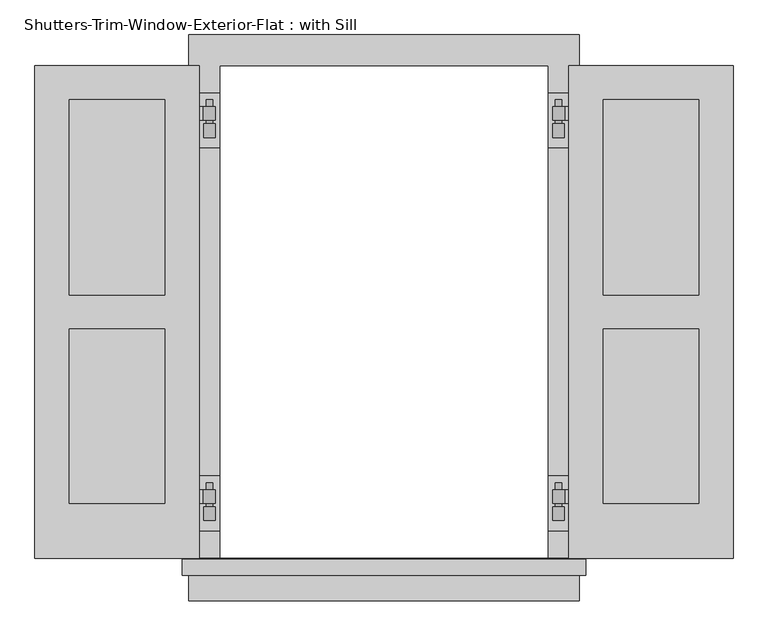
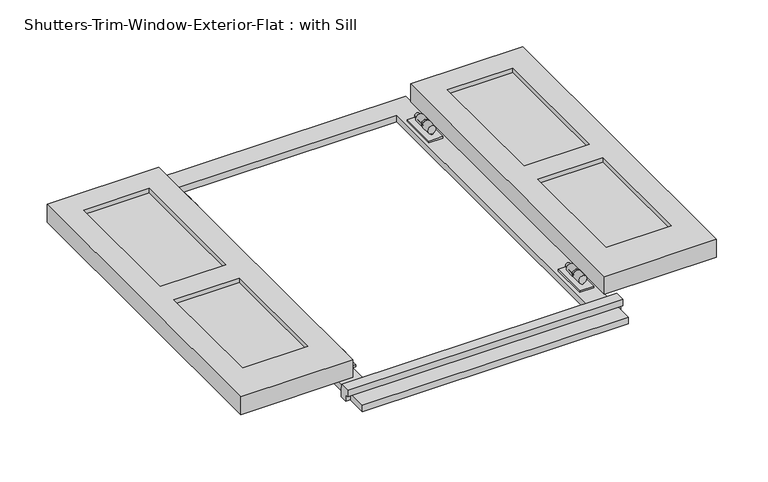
"""IFC4 building model written with IfcOpenShell, lengths in millimetres: proxy geometry, Shutters-Trim-Window-Exterior-Flat : with Sill."""

from ifc_helpers import new_model, si_unit, frame, origin, origin_with_axes, place, context, project, spatial, polyline, circle_curve, outline, extrude, source, transform, mapped, element, save
from ifc_brep_helpers import plane_surface, cylinder_surface, revolved_surface, advanced_brep


def shutters_trim_window_exterior_flat_with_sill_dd266633(model_context):
    return source(origin(), model_context, "Body", "SolidModel", [
        extrude(outline(polyline([(-647.7, 0.0), (-342.9, 0.0), (-342.9, -914.4), (-647.7, -914.4), (-647.7, 0.0)]), holes=[polyline([(-584.2, -63.5), (-584.2, -425.45), (-406.4, -425.45), (-406.4, -63.5), (-584.2, -63.5)]), polyline([(-406.4, -488.95), (-584.2, -488.95), (-584.2, -812.8), (-406.4, -812.8), (-406.4, -488.95)])]), frame((0.0, 0.0, 44.45), z_axis=(0.0, 0.0, 1.0), x_axis=(1.0, 0.0, 0.0)), (0.0, 0.0, 1.0), 50.8),
        extrude(outline(polyline([(-584.2, -63.5), (-406.4, -63.5), (-406.4, -425.45), (-584.2, -425.45), (-584.2, -63.5)])), frame((0.0, 0.0, 57.15), z_axis=(0.0, 0.0, 1.0), x_axis=(1.0, 0.0, 0.0)), (0.0, 0.0, 1.0), 25.4),
        extrude(outline(polyline([(-406.4, -488.95), (-406.4, -812.8), (-584.2, -812.8), (-584.2, -488.95), (-406.4, -488.95)])), frame((0.0, 0.0, 57.15), z_axis=(0.0, 0.0, 1.0), x_axis=(1.0, 0.0, 0.0)), (0.0, 0.0, 1.0), 25.4),
        extrude(outline(polyline([(647.7, 0.0), (647.7, -914.4), (342.9, -914.4), (342.9, 0.0), (647.7, 0.0)]), holes=[polyline([(584.2, -63.5), (406.4, -63.5), (406.4, -425.45), (584.2, -425.45), (584.2, -63.5)]), polyline([(406.4, -488.95), (406.4, -812.8), (584.2, -812.8), (584.2, -488.95), (406.4, -488.95)])]), frame((0.0, 0.0, 44.45), z_axis=(0.0, 0.0, 1.0), x_axis=(1.0, 0.0, 0.0)), (0.0, 0.0, 1.0), 50.8),
        extrude(outline(polyline([(584.2, -63.5), (584.2, -425.45), (406.4, -425.45), (406.4, -63.5), (584.2, -63.5)])), frame((0.0, 0.0, 57.15), z_axis=(0.0, 0.0, 1.0), x_axis=(1.0, 0.0, 0.0)), (0.0, 0.0, 1.0), 25.4),
        extrude(outline(polyline([(406.4, -488.95), (584.2, -488.95), (584.2, -812.8), (406.4, -812.8), (406.4, -488.95)])), frame((0.0, 0.0, 57.15), z_axis=(0.0, 0.0, 1.0), x_axis=(1.0, 0.0, 0.0)), (0.0, 0.0, 1.0), 25.4),
        extrude(outline(polyline([(-342.9, -762.0), (-304.8, -762.0), (-304.8, -863.6), (-342.9, -863.6), (-342.9, -762.0)])), frame((0.0, 0.0, 31.75), z_axis=(0.0, 0.0, 1.0), x_axis=(1.0, 0.0, 0.0)), (0.0, 0.0, 1.0), 4.7625),
        advanced_brep(
        [(-388.9375, -774.7, 44.45), (-363.474, -774.7, 44.45), (-363.474, -774.7, 39.6875), (-388.9375, -774.7, 39.6875), (-388.9375, -825.5, 39.6875), (-363.474, -825.5, 39.6875), (-363.474, -825.5, 44.45), (-388.9375, -825.5, 44.45), (-363.474, -787.4, 39.6875), (-323.85, -787.4, 39.6875), (-323.85, -812.8, 39.6875), (-363.474, -812.8, 39.6875), (-363.474, -812.8, 44.45), (-323.85, -812.8, 44.45), (-323.85, -787.4, 44.45), (-363.474, -787.4, 44.45), (-330.2, -812.8, 50.8), (-330.2, -787.4, 50.8), (-330.2, -812.8, 46.0375), (-330.2, -787.4, 46.0375), (-334.9625, -812.8, 46.0375), (-334.9625, -787.4, 46.0375), (-334.9625, -812.8, 50.8), (-334.9625, -787.4, 50.8)],
        [
            (0, 1),
            (1, 2),
            (2, 3),
            (3, 0),
            (4, 5),
            (5, 6),
            (6, 7),
            (7, 4),
            (2, 8),
            (8, 9),
            (9, 10),
            (10, 11),
            (11, 5),
            (4, 3),
            (7, 0),
            (6, 12),
            (12, 13),
            (13, 14),
            (14, 15),
            (15, 1),
            (16, 17),
            (17, 14, circle_curve(frame((-323.85, -787.4, 50.8), z_axis=(0.0, 1.0, 0.0), x_axis=(1.0, 0.0, 0.0)), 6.35)),
            (13, 16, circle_curve(frame((-323.85, -812.8, 50.8), z_axis=(0.0, -1.0, 0.0), x_axis=(1.0, 0.0, 0.0)), 6.35)),
            (18, 19),
            (19, 17),
            (16, 18),
            (20, 21),
            (21, 19),
            (18, 20),
            (22, 23),
            (23, 21),
            (20, 22),
            (9, 23, circle_curve(frame((-323.85, -787.4, 50.8), z_axis=(0.0, -1.0, 0.0), x_axis=(1.0, 0.0, 0.0)), 11.1125)),
            (22, 10, circle_curve(frame((-323.85, -812.8, 50.8), z_axis=(0.0, 1.0, 0.0), x_axis=(1.0, 0.0, 0.0)), 11.1125)),
            (12, 11),
            (8, 15),
        ],
        [
            plane_surface(frame((-323.85, -774.7, 50.8), z_axis=(0.0, 1.0, 0.0), x_axis=(0.0, 0.0, 1.0))),
            plane_surface(frame((-323.85, -825.5, 50.8), z_axis=(0.0, -1.0, 0.0), x_axis=(0.0, 0.0, 1.0))),
            plane_surface(frame((-388.9375, -774.7, 39.6875), z_axis=(0.0, 0.0, -1.0), x_axis=(0.0, -1.0, 0.0))),
            plane_surface(frame((-388.9375, -774.7, 44.45), z_axis=(-1.0, 0.0, 0.0), x_axis=(0.0, -1.0, 0.0))),
            plane_surface(frame((-323.85, -774.7, 44.45), z_axis=(0.0, 0.0, 1.0), x_axis=(0.0, -1.0, 0.0))),
            revolved_surface(polyline([(-317.5, -812.8, 50.8), (-317.5, -787.4, 50.8)]), (-323.85, -774.7, 50.8), (0.0, -1.0, 0.0)),
            plane_surface(frame((-330.2, -774.7, 46.0375), z_axis=(1.0, 0.0, 0.0), x_axis=(0.0, -1.0, 0.0))),
            plane_surface(frame((-334.9625, -774.7, 46.0375), z_axis=(0.0, 0.0, -1.0), x_axis=(0.0, -1.0, 0.0))),
            plane_surface(frame((-334.9625, -774.7, 50.8), z_axis=(-1.0, 0.0, 0.0), x_axis=(0.0, -1.0, 0.0))),
            cylinder_surface(frame((-323.85, -774.7, 50.8), z_axis=(0.0, 1.0, 0.0), x_axis=(1.0, 0.0, 0.0)), 11.1125),
            plane_surface(frame((-323.85, -812.8, 50.8), z_axis=(0.0, -1.0, 0.0), x_axis=(0.0, 0.0, 1.0))),
            plane_surface(frame((-363.474, -812.8, 44.45), z_axis=(1.0, 0.0, 0.0), x_axis=(0.0, -1.0, 0.0))),
            plane_surface(frame((-323.85, -787.4, 50.8), z_axis=(0.0, 1.0, 0.0), x_axis=(0.0, 0.0, 1.0))),
            plane_surface(frame((-363.474, -774.7, 44.45), z_axis=(1.0, 0.0, 0.0), x_axis=(0.0, -1.0, 0.0))),
        ],
        [
            (0, [[1, 2, 3, 4]]),
            (1, [[5, 6, 7, 8]]),
            (2, [[-3, 9, 10, 11, 12, 13, -5, 14]]),
            (3, [[-14, -8, 15, -4]]),
            (4, [[-7, 16, 17, 18, 19, 20, -1, -15]]),
            (5, [[21, 22, -18, 23]]),
            (6, [[24, 25, -21, 26]]),
            (7, [[27, 28, -24, 29]]),
            (8, [[30, 31, -27, 32]]),
            (9, [[-11, 33, -30, 34]]),
            (10, [[-12, -34, -32, -29, -26, -23, -17, 35]]),
            (11, [[-16, -6, -13, -35]]),
            (12, [[-19, -22, -25, -28, -31, -33, -10, 36]]),
            (13, [[-9, -2, -20, -36]]),
        ],
    ),
        advanced_brep(
        [(-326.23125, -819.15, 36.5125), (-326.23125, -819.15, 39.945632), (-321.46875, -819.15, 39.945632), (-321.46875, -819.15, 36.5125), (-317.5, -819.15, 50.8), (-330.2, -819.15, 50.8), (-326.23125, -844.55, 36.5125), (-321.46875, -844.55, 36.5125), (-321.46875, -844.55, 39.945632), (-326.23125, -844.55, 39.945632), (-330.2, -774.7, 50.8), (-317.5, -774.7, 50.8)],
        [
            (0, 1),
            (1, 2, circle_curve(frame((-323.85, -819.15, 50.8), z_axis=(0.0, 1.0, 0.0), x_axis=(1.0, 0.0, 0.0)), 11.1125)),
            (2, 3),
            (3, 0),
            (4, 5, circle_curve(frame((-323.85, -819.15, 50.8), z_axis=(0.0, -1.0, 0.0), x_axis=(1.0, 0.0, 0.0)), 6.35)),
            (5, 4, circle_curve(frame((-323.85, -819.15, 50.8), z_axis=(0.0, -1.0, 0.0), x_axis=(1.0, 0.0, 0.0)), 6.35)),
            (6, 7),
            (7, 8),
            (8, 9, circle_curve(frame((-323.85, -844.55, 50.8), z_axis=(0.0, -1.0, 0.0), x_axis=(1.0, 0.0, 0.0)), 11.1125)),
            (9, 6),
            (0, 6),
            (9, 1),
            (3, 7),
            (2, 8),
            (10, 11, circle_curve(frame((-323.85, -774.7, 50.8), z_axis=(0.0, 1.0, 0.0), x_axis=(1.0, 0.0, 0.0)), 6.35)),
            (11, 10, circle_curve(frame((-323.85, -774.7, 50.8), z_axis=(0.0, 1.0, 0.0), x_axis=(1.0, 0.0, 0.0)), 6.35)),
            (11, 4),
            (5, 10),
        ],
        [
            plane_surface(frame((-321.46875, -819.15, 36.5125), z_axis=(0.0, 1.0, 0.0), x_axis=(1.0, 0.0, 6.2395484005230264e-12))),
            plane_surface(frame((-321.46875, -844.55, 36.5125), z_axis=(0.0, -1.0, 0.0), x_axis=(-1.0, 0.0, -6.2395484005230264e-12))),
            plane_surface(frame((-326.23125, -819.15, 39.945632), z_axis=(-1.0, 0.0, 0.0), x_axis=(0.0, -1.0, 0.0))),
            plane_surface(frame((-326.23125, -819.15, 36.5125), z_axis=(6.2395484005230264e-12, 0.0, -1.0), x_axis=(0.0, -1.0, 0.0))),
            plane_surface(frame((-321.46875, -819.15, 36.5125), z_axis=(1.0, 0.0, 0.0), x_axis=(0.0, -1.0, 0.0))),
            cylinder_surface(frame((-323.85, -844.55, 50.8), z_axis=(0.0, 1.0, 0.0), x_axis=(1.0, 0.0, 0.0)), 11.1125),
            plane_surface(frame((-317.5, -774.7, 50.8), z_axis=(0.0, 1.0, 0.0), x_axis=(0.0, 0.0, 1.0))),
            cylinder_surface(frame((-323.85, -844.55, 50.8), z_axis=(0.0, 1.0, 0.0), x_axis=(1.0, 0.0, 0.0)), 6.35),
        ],
        [
            (0, [[1, 2, 3, 4], [5, 6]]),
            (1, [[7, 8, 9, 10]]),
            (2, [[11, -10, 12, -1]]),
            (3, [[13, -7, -11, -4]]),
            (4, [[14, -8, -13, -3]]),
            (5, [[-12, -9, -14, -2]]),
            (6, [[15, 16]]),
            (7, [[17, -6, 18, -16]]),
            (7, [[-18, -5, -17, -15]]),
        ],
    ),
        extrude(outline(polyline([(342.9, -762.0), (342.9, -863.6), (304.8, -863.6), (304.8, -762.0), (342.9, -762.0)])), frame((0.0, 0.0, 31.75), z_axis=(0.0, 0.0, 1.0), x_axis=(1.0, 0.0, 0.0)), (0.0, 0.0, 1.0), 4.7625),
        advanced_brep(
        [(388.9375, -774.7, 44.45), (388.9375, -774.7, 39.6875), (363.474, -774.7, 39.6875), (363.474, -774.7, 44.45), (388.9375, -825.5, 39.6875), (388.9375, -825.5, 44.45), (363.474, -825.5, 44.45), (363.474, -825.5, 39.6875), (363.474, -812.8, 39.6875), (323.85, -812.8, 39.6875), (323.85, -787.4, 39.6875), (363.474, -787.4, 39.6875), (363.474, -787.4, 44.45), (323.85, -787.4, 44.45), (323.85, -812.8, 44.45), (363.474, -812.8, 44.45), (330.2, -812.8, 50.8), (330.2, -787.4, 50.8), (330.2, -812.8, 46.0375), (330.2, -787.4, 46.0375), (334.9625, -812.8, 46.0375), (334.9625, -787.4, 46.0375), (334.9625, -812.8, 50.8), (334.9625, -787.4, 50.8)],
        [
            (0, 1),
            (1, 2),
            (2, 3),
            (3, 0),
            (4, 5),
            (5, 6),
            (6, 7),
            (7, 4),
            (1, 4),
            (7, 8),
            (8, 9),
            (9, 10),
            (10, 11),
            (11, 2),
            (0, 5),
            (3, 12),
            (12, 13),
            (13, 14),
            (14, 15),
            (15, 6),
            (16, 14, circle_curve(frame((323.85, -812.8, 50.8), z_axis=(0.0, -1.0, 0.0), x_axis=(-1.0, 0.0, 0.0)), 6.35)),
            (13, 17, circle_curve(frame((323.85, -787.4, 50.8), z_axis=(0.0, 1.0, 0.0), x_axis=(-1.0, 0.0, 0.0)), 6.35)),
            (17, 16),
            (18, 16),
            (17, 19),
            (19, 18),
            (20, 18),
            (19, 21),
            (21, 20),
            (22, 20),
            (21, 23),
            (23, 22),
            (9, 22, circle_curve(frame((323.85, -812.8, 50.8), z_axis=(0.0, 1.0, 0.0), x_axis=(-1.0, 0.0, 0.0)), 11.1125)),
            (23, 10, circle_curve(frame((323.85, -787.4, 50.8), z_axis=(0.0, -1.0, 0.0), x_axis=(-1.0, 0.0, 0.0)), 11.1125)),
            (8, 15),
            (12, 11),
        ],
        [
            plane_surface(frame((323.85, -774.7, 50.8), z_axis=(0.0, 1.0, 0.0), x_axis=(0.0, 0.0, 1.0))),
            plane_surface(frame((323.85, -825.5, 50.8), z_axis=(0.0, -1.0, 0.0), x_axis=(0.0, 0.0, 1.0))),
            plane_surface(frame((388.9375, -774.7, 39.6875), z_axis=(0.0, 0.0, -1.0), x_axis=(0.0, -1.0, 0.0))),
            plane_surface(frame((388.9375, -774.7, 44.45), z_axis=(1.0, 0.0, 0.0), x_axis=(0.0, -1.0, 0.0))),
            plane_surface(frame((323.85, -774.7, 44.45), z_axis=(0.0, 0.0, 1.0), x_axis=(0.0, -1.0, 0.0))),
            revolved_surface(polyline([(317.5, -812.8, 50.8), (317.5, -787.4, 50.8)]), (323.85, -774.7, 50.8), (0.0, -1.0, 0.0)),
            plane_surface(frame((330.2, -774.7, 46.0375), z_axis=(-1.0, 0.0, 0.0), x_axis=(0.0, -1.0, 0.0))),
            plane_surface(frame((334.9625, -774.7, 46.0375), z_axis=(0.0, 0.0, -1.0), x_axis=(0.0, -1.0, 0.0))),
            plane_surface(frame((334.9625, -774.7, 50.8), z_axis=(1.0, 0.0, 0.0), x_axis=(0.0, -1.0, 0.0))),
            cylinder_surface(frame((323.85, -774.7, 50.8), z_axis=(0.0, 1.0, 0.0), x_axis=(-1.0, 0.0, 0.0)), 11.1125),
            plane_surface(frame((323.85, -812.8, 50.8), z_axis=(0.0, -1.0, 0.0), x_axis=(0.0, 0.0, 1.0))),
            plane_surface(frame((363.474, -812.8, 44.45), z_axis=(-1.0, 0.0, 0.0), x_axis=(0.0, -1.0, 0.0))),
            plane_surface(frame((323.85, -787.4, 50.8), z_axis=(0.0, 1.0, 0.0), x_axis=(0.0, 0.0, 1.0))),
            plane_surface(frame((363.474, -774.7, 44.45), z_axis=(-1.0, 0.0, 0.0), x_axis=(0.0, -1.0, 0.0))),
        ],
        [
            (0, [[1, 2, 3, 4]]),
            (1, [[5, 6, 7, 8]]),
            (2, [[9, -8, 10, 11, 12, 13, 14, -2]]),
            (3, [[-1, 15, -5, -9]]),
            (4, [[-15, -4, 16, 17, 18, 19, 20, -6]]),
            (5, [[21, -18, 22, 23]]),
            (6, [[24, -23, 25, 26]]),
            (7, [[27, -26, 28, 29]]),
            (8, [[30, -29, 31, 32]]),
            (9, [[33, -32, 34, -12]]),
            (10, [[35, -19, -21, -24, -27, -30, -33, -11]]),
            (11, [[-35, -10, -7, -20]]),
            (12, [[36, -13, -34, -31, -28, -25, -22, -17]]),
            (13, [[-36, -16, -3, -14]]),
        ],
    ),
        advanced_brep(
        [(326.23125, -819.15, 36.5125), (321.46875, -819.15, 36.5125), (321.46875, -819.15, 39.945632), (326.23125, -819.15, 39.945632), (317.5, -819.15, 50.8), (330.2, -819.15, 50.8), (326.23125, -844.55, 36.5125), (326.23125, -844.55, 39.945632), (321.46875, -844.55, 39.945632), (321.46875, -844.55, 36.5125), (330.2, -774.7, 50.8), (317.5, -774.7, 50.8)],
        [
            (0, 1),
            (1, 2),
            (2, 3, circle_curve(frame((323.85, -819.15, 50.8), z_axis=(0.0, 1.0, 0.0), x_axis=(-1.0, 0.0, 0.0)), 11.1125)),
            (3, 0),
            (4, 5, circle_curve(frame((323.85, -819.15, 50.8), z_axis=(0.0, -1.0, 0.0), x_axis=(-1.0, 0.0, 0.0)), 6.35)),
            (5, 4, circle_curve(frame((323.85, -819.15, 50.8), z_axis=(0.0, -1.0, 0.0), x_axis=(-1.0, 0.0, 0.0)), 6.35)),
            (6, 7),
            (7, 8, circle_curve(frame((323.85, -844.55, 50.8), z_axis=(0.0, -1.0, 0.0), x_axis=(-1.0, 0.0, 0.0)), 11.1125)),
            (8, 9),
            (9, 6),
            (3, 7),
            (6, 0),
            (9, 1),
            (8, 2),
            (10, 11, circle_curve(frame((323.85, -774.7, 50.8), z_axis=(0.0, 1.0, 0.0), x_axis=(-1.0, 0.0, 0.0)), 6.35)),
            (11, 10, circle_curve(frame((323.85, -774.7, 50.8), z_axis=(0.0, 1.0, 0.0), x_axis=(-1.0, 0.0, 0.0)), 6.35)),
            (10, 5),
            (4, 11),
        ],
        [
            plane_surface(frame((321.46875, -819.15, 36.5125), z_axis=(0.0, 1.0, 0.0), x_axis=(-1.0, 0.0, 6.24601973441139e-12))),
            plane_surface(frame((321.46875, -844.55, 36.5125), z_axis=(0.0, -1.0, 0.0), x_axis=(1.0, 0.0, -6.24601973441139e-12))),
            plane_surface(frame((326.23125, -819.15, 39.945632), z_axis=(1.0, 0.0, 0.0), x_axis=(0.0, -1.0, 0.0))),
            plane_surface(frame((326.23125, -819.15, 36.5125), z_axis=(-6.24601973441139e-12, 0.0, -1.0), x_axis=(0.0, -1.0, 0.0))),
            plane_surface(frame((321.46875, -819.15, 36.5125), z_axis=(-1.0, 0.0, 0.0), x_axis=(0.0, -1.0, 0.0))),
            cylinder_surface(frame((323.85, -844.55, 50.8), z_axis=(0.0, 1.0, 0.0), x_axis=(-1.0, 0.0, 0.0)), 11.1125),
            plane_surface(frame((317.5, -774.7, 50.8), z_axis=(0.0, 1.0, 0.0), x_axis=(0.0, 0.0, 1.0))),
            cylinder_surface(frame((323.85, -844.55, 50.8), z_axis=(0.0, 1.0, 0.0), x_axis=(-1.0, 0.0, 0.0)), 6.35),
        ],
        [
            (0, [[1, 2, 3, 4], [5, 6]]),
            (1, [[7, 8, 9, 10]]),
            (2, [[-4, 11, -7, 12]]),
            (3, [[-1, -12, -10, 13]]),
            (4, [[-2, -13, -9, 14]]),
            (5, [[-3, -14, -8, -11]]),
            (6, [[15, 16]]),
            (7, [[-15, 17, -5, 18]]),
            (7, [[-16, -18, -6, -17]]),
        ],
    ),
        extrude(outline(polyline([(342.9, -50.8), (342.9, -152.4), (304.8, -152.4), (304.8, -50.8), (342.9, -50.8)])), frame((0.0, 0.0, 31.75), z_axis=(0.0, 0.0, 1.0), x_axis=(1.0, 0.0, 0.0)), (0.0, 0.0, 1.0), 4.7625),
        advanced_brep(
        [(388.9375, -63.5, 44.45), (388.9375, -63.5, 39.6875), (363.474, -63.5, 39.6875), (363.474, -63.5, 44.45), (388.9375, -114.3, 39.6875), (388.9375, -114.3, 44.45), (363.474, -114.3, 44.45), (363.474, -114.3, 39.6875), (363.474, -101.6, 39.6875), (323.85, -101.6, 39.6875), (323.85, -76.2, 39.6875), (363.474, -76.2, 39.6875), (363.474, -76.2, 44.45), (323.85, -76.2, 44.45), (323.85, -101.6, 44.45), (363.474, -101.6, 44.45), (330.2, -101.6, 50.8), (330.2, -76.2, 50.8), (330.2, -101.6, 46.0375), (330.2, -76.2, 46.0375), (334.9625, -101.6, 46.0375), (334.9625, -76.2, 46.0375), (334.9625, -101.6, 50.8), (334.9625, -76.2, 50.8)],
        [
            (0, 1),
            (1, 2),
            (2, 3),
            (3, 0),
            (4, 5),
            (5, 6),
            (6, 7),
            (7, 4),
            (1, 4),
            (7, 8),
            (8, 9),
            (9, 10),
            (10, 11),
            (11, 2),
            (0, 5),
            (3, 12),
            (12, 13),
            (13, 14),
            (14, 15),
            (15, 6),
            (16, 14, circle_curve(frame((323.85, -101.6, 50.8), z_axis=(0.0, -1.0, 0.0), x_axis=(-1.0, 0.0, 0.0)), 6.35)),
            (13, 17, circle_curve(frame((323.85, -76.2, 50.8), z_axis=(0.0, 1.0, 0.0), x_axis=(-1.0, 0.0, 0.0)), 6.35)),
            (17, 16),
            (18, 16),
            (17, 19),
            (19, 18),
            (20, 18),
            (19, 21),
            (21, 20),
            (22, 20),
            (21, 23),
            (23, 22),
            (9, 22, circle_curve(frame((323.85, -101.6, 50.8), z_axis=(0.0, 1.0, 0.0), x_axis=(-1.0, 0.0, 0.0)), 11.1125)),
            (23, 10, circle_curve(frame((323.85, -76.2, 50.8), z_axis=(0.0, -1.0, 0.0), x_axis=(-1.0, 0.0, 0.0)), 11.1125)),
            (8, 15),
            (12, 11),
        ],
        [
            plane_surface(frame((323.85, -63.5, 50.8), z_axis=(0.0, 1.0, 0.0), x_axis=(0.0, 0.0, 1.0))),
            plane_surface(frame((323.85, -114.3, 50.8), z_axis=(0.0, -1.0, 0.0), x_axis=(0.0, 0.0, 1.0))),
            plane_surface(frame((388.9375, -63.5, 39.6875), z_axis=(0.0, 0.0, -1.0), x_axis=(0.0, -1.0, 0.0))),
            plane_surface(frame((388.9375, -63.5, 44.45), z_axis=(1.0, 0.0, 0.0), x_axis=(0.0, -1.0, 0.0))),
            plane_surface(frame((323.85, -63.5, 44.45), z_axis=(0.0, 0.0, 1.0), x_axis=(0.0, -1.0, 0.0))),
            revolved_surface(polyline([(317.5, -101.6, 50.8), (317.5, -76.2, 50.8)]), (323.85, -63.5, 50.8), (0.0, -1.0, 0.0)),
            plane_surface(frame((330.2, -63.5, 46.0375), z_axis=(-1.0, 0.0, 0.0), x_axis=(0.0, -1.0, 0.0))),
            plane_surface(frame((334.9625, -63.5, 46.0375), z_axis=(0.0, 0.0, -1.0), x_axis=(0.0, -1.0, 0.0))),
            plane_surface(frame((334.9625, -63.5, 50.8), z_axis=(1.0, 0.0, 0.0), x_axis=(0.0, -1.0, 0.0))),
            cylinder_surface(frame((323.85, -63.5, 50.8), z_axis=(0.0, 1.0, 0.0), x_axis=(-1.0, 0.0, 0.0)), 11.1125),
            plane_surface(frame((323.85, -101.6, 50.8), z_axis=(0.0, -1.0, 0.0), x_axis=(0.0, 0.0, 1.0))),
            plane_surface(frame((363.474, -101.6, 44.45), z_axis=(-1.0, 0.0, 0.0), x_axis=(0.0, -1.0, 0.0))),
            plane_surface(frame((323.85, -76.2, 50.8), z_axis=(0.0, 1.0, 0.0), x_axis=(0.0, 0.0, 1.0))),
            plane_surface(frame((363.474, -63.5, 44.45), z_axis=(-1.0, 0.0, 0.0), x_axis=(0.0, -1.0, 0.0))),
        ],
        [
            (0, [[1, 2, 3, 4]]),
            (1, [[5, 6, 7, 8]]),
            (2, [[9, -8, 10, 11, 12, 13, 14, -2]]),
            (3, [[-1, 15, -5, -9]]),
            (4, [[-15, -4, 16, 17, 18, 19, 20, -6]]),
            (5, [[21, -18, 22, 23]]),
            (6, [[24, -23, 25, 26]]),
            (7, [[27, -26, 28, 29]]),
            (8, [[30, -29, 31, 32]]),
            (9, [[33, -32, 34, -12]]),
            (10, [[35, -19, -21, -24, -27, -30, -33, -11]]),
            (11, [[-35, -10, -7, -20]]),
            (12, [[36, -13, -34, -31, -28, -25, -22, -17]]),
            (13, [[-36, -16, -3, -14]]),
        ],
    ),
        advanced_brep(
        [(326.23125, -107.95, 36.5125), (321.46875, -107.95, 36.5125), (321.46875, -107.95, 39.945632), (326.23125, -107.95, 39.945632), (317.5, -107.95, 50.8), (330.2, -107.95, 50.8), (326.23125, -133.35, 36.5125), (326.23125, -133.35, 39.945632), (321.46875, -133.35, 39.945632), (321.46875, -133.35, 36.5125), (330.2, -63.5, 50.8), (317.5, -63.5, 50.8)],
        [
            (0, 1),
            (1, 2),
            (2, 3, circle_curve(frame((323.85, -107.95, 50.8), z_axis=(0.0, 1.0, 0.0), x_axis=(-1.0, 0.0, 0.0)), 11.1125)),
            (3, 0),
            (4, 5, circle_curve(frame((323.85, -107.95, 50.8), z_axis=(0.0, -1.0, 0.0), x_axis=(-1.0, 0.0, 0.0)), 6.35)),
            (5, 4, circle_curve(frame((323.85, -107.95, 50.8), z_axis=(0.0, -1.0, 0.0), x_axis=(-1.0, 0.0, 0.0)), 6.35)),
            (6, 7),
            (7, 8, circle_curve(frame((323.85, -133.35, 50.8), z_axis=(0.0, -1.0, 0.0), x_axis=(-1.0, 0.0, 0.0)), 11.1125)),
            (8, 9),
            (9, 6),
            (3, 7),
            (6, 0),
            (9, 1),
            (8, 2),
            (10, 11, circle_curve(frame((323.85, -63.5, 50.8), z_axis=(0.0, 1.0, 0.0), x_axis=(-1.0, 0.0, 0.0)), 6.35)),
            (11, 10, circle_curve(frame((323.85, -63.5, 50.8), z_axis=(0.0, 1.0, 0.0), x_axis=(-1.0, 0.0, 0.0)), 6.35)),
            (10, 5),
            (4, 11),
        ],
        [
            plane_surface(frame((321.46875, -107.95, 36.5125), z_axis=(0.0, 1.0, 0.0), x_axis=(-1.0, 0.0, 6.24601973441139e-12))),
            plane_surface(frame((321.46875, -133.35, 36.5125), z_axis=(0.0, -1.0, 0.0), x_axis=(1.0, 0.0, -6.24601973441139e-12))),
            plane_surface(frame((326.23125, -107.95, 39.945632), z_axis=(1.0, 0.0, 0.0), x_axis=(0.0, -1.0, 0.0))),
            plane_surface(frame((326.23125, -107.95, 36.5125), z_axis=(-6.24601973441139e-12, 0.0, -1.0), x_axis=(0.0, -1.0, 0.0))),
            plane_surface(frame((321.46875, -107.95, 36.5125), z_axis=(-1.0, 0.0, 0.0), x_axis=(0.0, -1.0, 0.0))),
            cylinder_surface(frame((323.85, -133.35, 50.8), z_axis=(0.0, 1.0, 0.0), x_axis=(-1.0, 0.0, 0.0)), 11.1125),
            plane_surface(frame((317.5, -63.5, 50.8), z_axis=(0.0, 1.0, 0.0), x_axis=(0.0, 0.0, 1.0))),
            cylinder_surface(frame((323.85, -133.35, 50.8), z_axis=(0.0, 1.0, 0.0), x_axis=(-1.0, 0.0, 0.0)), 6.35),
        ],
        [
            (0, [[1, 2, 3, 4], [5, 6]]),
            (1, [[7, 8, 9, 10]]),
            (2, [[-4, 11, -7, 12]]),
            (3, [[-1, -12, -10, 13]]),
            (4, [[-2, -13, -9, 14]]),
            (5, [[-3, -14, -8, -11]]),
            (6, [[15, 16]]),
            (7, [[-15, 17, -5, 18]]),
            (7, [[-16, -18, -6, -17]]),
        ],
    ),
        extrude(outline(polyline([(-342.9, -50.8), (-304.8, -50.8), (-304.8, -152.4), (-342.9, -152.4), (-342.9, -50.8)])), frame((0.0, 0.0, 31.75), z_axis=(0.0, 0.0, 1.0), x_axis=(1.0, 0.0, 0.0)), (0.0, 0.0, 1.0), 4.7625),
        advanced_brep(
        [(-388.9375, -63.5, 44.45), (-363.474, -63.5, 44.45), (-363.474, -63.5, 39.6875), (-388.9375, -63.5, 39.6875), (-388.9375, -114.3, 39.6875), (-363.474, -114.3, 39.6875), (-363.474, -114.3, 44.45), (-388.9375, -114.3, 44.45), (-363.474, -76.2, 39.6875), (-323.85, -76.2, 39.6875), (-323.85, -101.6, 39.6875), (-363.474, -101.6, 39.6875), (-363.474, -101.6, 44.45), (-323.85, -101.6, 44.45), (-323.85, -76.2, 44.45), (-363.474, -76.2, 44.45), (-330.2, -101.6, 50.8), (-330.2, -76.2, 50.8), (-330.2, -101.6, 46.0375), (-330.2, -76.2, 46.0375), (-334.9625, -101.6, 46.0375), (-334.9625, -76.2, 46.0375), (-334.9625, -101.6, 50.8), (-334.9625, -76.2, 50.8)],
        [
            (0, 1),
            (1, 2),
            (2, 3),
            (3, 0),
            (4, 5),
            (5, 6),
            (6, 7),
            (7, 4),
            (2, 8),
            (8, 9),
            (9, 10),
            (10, 11),
            (11, 5),
            (4, 3),
            (7, 0),
            (6, 12),
            (12, 13),
            (13, 14),
            (14, 15),
            (15, 1),
            (16, 17),
            (17, 14, circle_curve(frame((-323.85, -76.2, 50.8), z_axis=(0.0, 1.0, 0.0), x_axis=(1.0, 0.0, 0.0)), 6.35)),
            (13, 16, circle_curve(frame((-323.85, -101.6, 50.8), z_axis=(0.0, -1.0, 0.0), x_axis=(1.0, 0.0, 0.0)), 6.35)),
            (18, 19),
            (19, 17),
            (16, 18),
            (20, 21),
            (21, 19),
            (18, 20),
            (22, 23),
            (23, 21),
            (20, 22),
            (9, 23, circle_curve(frame((-323.85, -76.2, 50.8), z_axis=(0.0, -1.0, 0.0), x_axis=(1.0, 0.0, 0.0)), 11.1125)),
            (22, 10, circle_curve(frame((-323.85, -101.6, 50.8), z_axis=(0.0, 1.0, 0.0), x_axis=(1.0, 0.0, 0.0)), 11.1125)),
            (12, 11),
            (8, 15),
        ],
        [
            plane_surface(frame((-323.85, -63.5, 50.8), z_axis=(0.0, 1.0, 0.0), x_axis=(0.0, 0.0, 1.0))),
            plane_surface(frame((-323.85, -114.3, 50.8), z_axis=(0.0, -1.0, 0.0), x_axis=(0.0, 0.0, 1.0))),
            plane_surface(frame((-388.9375, -63.5, 39.6875), z_axis=(0.0, 0.0, -1.0), x_axis=(0.0, -1.0, 0.0))),
            plane_surface(frame((-388.9375, -63.5, 44.45), z_axis=(-1.0, 0.0, 0.0), x_axis=(0.0, -1.0, 0.0))),
            plane_surface(frame((-323.85, -63.5, 44.45), z_axis=(0.0, 0.0, 1.0), x_axis=(0.0, -1.0, 0.0))),
            revolved_surface(polyline([(-317.5, -101.6, 50.8), (-317.5, -76.2, 50.8)]), (-323.85, -63.5, 50.8), (0.0, -1.0, 0.0)),
            plane_surface(frame((-330.2, -63.5, 46.0375), z_axis=(1.0, 0.0, 0.0), x_axis=(0.0, -1.0, 0.0))),
            plane_surface(frame((-334.9625, -63.5, 46.0375), z_axis=(0.0, 0.0, -1.0), x_axis=(0.0, -1.0, 0.0))),
            plane_surface(frame((-334.9625, -63.5, 50.8), z_axis=(-1.0, 0.0, 0.0), x_axis=(0.0, -1.0, 0.0))),
            cylinder_surface(frame((-323.85, -63.5, 50.8), z_axis=(0.0, 1.0, 0.0), x_axis=(1.0, 0.0, 0.0)), 11.1125),
            plane_surface(frame((-323.85, -101.6, 50.8), z_axis=(0.0, -1.0, 0.0), x_axis=(0.0, 0.0, 1.0))),
            plane_surface(frame((-363.474, -101.6, 44.45), z_axis=(1.0, 0.0, 0.0), x_axis=(0.0, -1.0, 0.0))),
            plane_surface(frame((-323.85, -76.2, 50.8), z_axis=(0.0, 1.0, 0.0), x_axis=(0.0, 0.0, 1.0))),
            plane_surface(frame((-363.474, -63.5, 44.45), z_axis=(1.0, 0.0, 0.0), x_axis=(0.0, -1.0, 0.0))),
        ],
        [
            (0, [[1, 2, 3, 4]]),
            (1, [[5, 6, 7, 8]]),
            (2, [[-3, 9, 10, 11, 12, 13, -5, 14]]),
            (3, [[-14, -8, 15, -4]]),
            (4, [[-7, 16, 17, 18, 19, 20, -1, -15]]),
            (5, [[21, 22, -18, 23]]),
            (6, [[24, 25, -21, 26]]),
            (7, [[27, 28, -24, 29]]),
            (8, [[30, 31, -27, 32]]),
            (9, [[-11, 33, -30, 34]]),
            (10, [[-12, -34, -32, -29, -26, -23, -17, 35]]),
            (11, [[-16, -6, -13, -35]]),
            (12, [[-19, -22, -25, -28, -31, -33, -10, 36]]),
            (13, [[-9, -2, -20, -36]]),
        ],
    ),
        advanced_brep(
        [(-326.23125, -107.95, 36.5125), (-326.23125, -107.95, 39.945632), (-321.46875, -107.95, 39.945632), (-321.46875, -107.95, 36.5125), (-317.5, -107.95, 50.8), (-330.2, -107.95, 50.8), (-326.23125, -133.35, 36.5125), (-321.46875, -133.35, 36.5125), (-321.46875, -133.35, 39.945632), (-326.23125, -133.35, 39.945632), (-330.2, -63.5, 50.8), (-317.5, -63.5, 50.8)],
        [
            (0, 1),
            (1, 2, circle_curve(frame((-323.85, -107.95, 50.8), z_axis=(0.0, 1.0, 0.0), x_axis=(1.0, 0.0, 0.0)), 11.1125)),
            (2, 3),
            (3, 0),
            (4, 5, circle_curve(frame((-323.85, -107.95, 50.8), z_axis=(0.0, -1.0, 0.0), x_axis=(1.0, 0.0, 0.0)), 6.35)),
            (5, 4, circle_curve(frame((-323.85, -107.95, 50.8), z_axis=(0.0, -1.0, 0.0), x_axis=(1.0, 0.0, 0.0)), 6.35)),
            (6, 7),
            (7, 8),
            (8, 9, circle_curve(frame((-323.85, -133.35, 50.8), z_axis=(0.0, -1.0, 0.0), x_axis=(1.0, 0.0, 0.0)), 11.1125)),
            (9, 6),
            (0, 6),
            (9, 1),
            (3, 7),
            (2, 8),
            (10, 11, circle_curve(frame((-323.85, -63.5, 50.8), z_axis=(0.0, 1.0, 0.0), x_axis=(1.0, 0.0, 0.0)), 6.35)),
            (11, 10, circle_curve(frame((-323.85, -63.5, 50.8), z_axis=(0.0, 1.0, 0.0), x_axis=(1.0, 0.0, 0.0)), 6.35)),
            (11, 4),
            (5, 10),
        ],
        [
            plane_surface(frame((-321.46875, -107.95, 36.5125), z_axis=(0.0, 1.0, 0.0), x_axis=(1.0, 0.0, 6.2395484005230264e-12))),
            plane_surface(frame((-321.46875, -133.35, 36.5125), z_axis=(0.0, -1.0, 0.0), x_axis=(-1.0, 0.0, -6.2395484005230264e-12))),
            plane_surface(frame((-326.23125, -107.95, 39.945632), z_axis=(-1.0, 0.0, 0.0), x_axis=(0.0, -1.0, 0.0))),
            plane_surface(frame((-326.23125, -107.95, 36.5125), z_axis=(6.2395484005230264e-12, 0.0, -1.0), x_axis=(0.0, -1.0, 0.0))),
            plane_surface(frame((-321.46875, -107.95, 36.5125), z_axis=(1.0, 0.0, 0.0), x_axis=(0.0, -1.0, 0.0))),
            cylinder_surface(frame((-323.85, -133.35, 50.8), z_axis=(0.0, 1.0, 0.0), x_axis=(1.0, 0.0, 0.0)), 11.1125),
            plane_surface(frame((-317.5, -63.5, 50.8), z_axis=(0.0, 1.0, 0.0), x_axis=(0.0, 0.0, 1.0))),
            cylinder_surface(frame((-323.85, -133.35, 50.8), z_axis=(0.0, 1.0, 0.0), x_axis=(1.0, 0.0, 0.0)), 6.35),
        ],
        [
            (0, [[1, 2, 3, 4], [5, 6]]),
            (1, [[7, 8, 9, 10]]),
            (2, [[11, -10, 12, -1]]),
            (3, [[13, -7, -11, -4]]),
            (4, [[14, -8, -13, -3]]),
            (5, [[-12, -9, -14, -2]]),
            (6, [[15, 16]]),
            (7, [[17, -6, 18, -16]]),
            (7, [[-18, -5, -17, -15]]),
        ],
    ),
        extrude(outline(polyline([(-361.95, 57.15), (361.95, 57.15), (361.95, -914.4), (304.8, -914.4), (304.8, 0.0), (-304.8, 0.0), (-304.8, -914.4), (-361.95, -914.4), (-361.95, 57.15)])), origin_with_axes(), (0.0, 0.0, 1.0), 19.05),
        extrude(outline(polyline([(-946.15, 38.1), (-916.8580645, 38.1), (-914.4, 19.05), (-914.4, 0.0), (-936.5823709, 0.0), (-936.5823709, 19.05), (-946.15, 19.05), (-946.15, 38.1)])), frame((-374.65, 0.0, 0.0), z_axis=(1.0, 0.0, 0.0), x_axis=(0.0, 1.0, 0.0)), (0.0, 0.0, 1.0), 749.3),
        extrude(outline(polyline([(361.95, -936.5823709), (361.95, -993.7323709), (-361.95, -993.7323709), (-361.95, -936.5823709), (361.95, -936.5823709)])), origin_with_axes(), (0.0, 0.0, 1.0), 19.05),
    ])


if __name__ == "__main__":
    model = new_model("IFC4")
    model_context = context("Model", 3, world=origin())
    ifc_project = project(units=[si_unit("LENGTHUNIT", "METRE", prefix="MILLI")], contexts=[model_context])
    site = spatial("IfcSite", under=ifc_project)
    building = spatial("IfcBuilding", under=site)
    placement = place(None, origin())
    shutters_trim_window_exterior_flat_with_sill_shape = shutters_trim_window_exterior_flat_with_sill_dd266633(model_context)
    element("IfcBuildingElementProxy", 1, Name="Shutters-Trim-Window-Exterior-Flat : with Sill", ObjectType="Shutters-Trim-Window-Exterior-Flat : with Sill", at=placement, inside=building, context=model_context, shape_type="MappedRepresentation", body=[
        mapped(shutters_trim_window_exterior_flat_with_sill_shape, transform((0.0, 0.0, 0.0), x_axis=(1.0, 0.0, 0.0), y_axis=(0.0, 1.0, 0.0), z_axis=(0.0, 0.0, 1.0))),
    ])
    save(model, "model.ifc")
